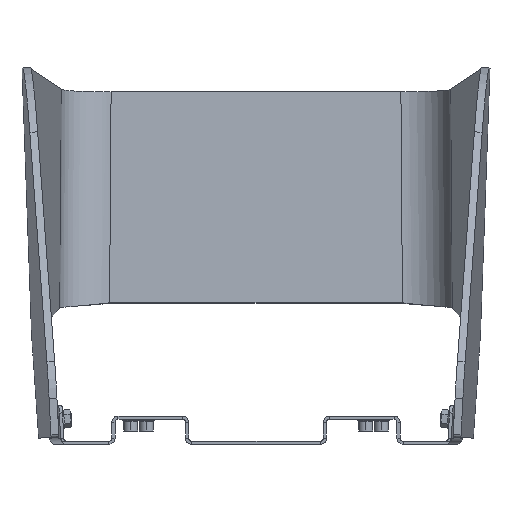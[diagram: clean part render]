
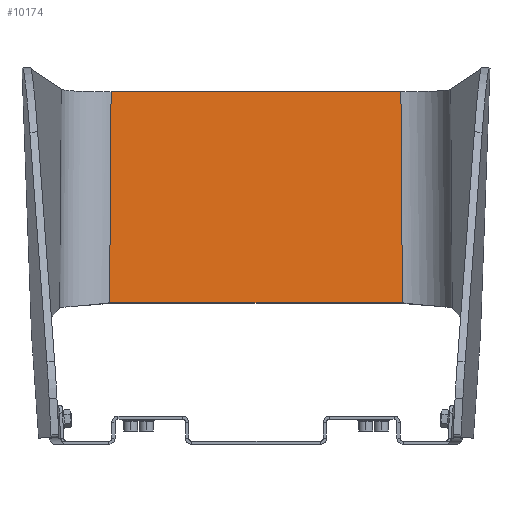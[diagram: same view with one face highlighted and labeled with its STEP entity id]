
A CAD part, front view. The second image highlights one B-rep face of the part: STEP entity #10174.
In plain terms, the highlighted planar face has unit normal (0, -0.997, 0.079).
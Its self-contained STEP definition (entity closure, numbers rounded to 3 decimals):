
#2483=DIRECTION('',(1.,0.,0.));
#2484=VECTOR('',#2483,185.024);
#2485=CARTESIAN_POINT('',(-92.512,483.714,207.227));
#2486=LINE('1068',#2485,#2484);
#2487=DIRECTION('',(0.007,-0.078,-0.997));
#2488=VECTOR('',#2487,135.287);
#2489=CARTESIAN_POINT('',(92.512,483.714,207.227));
#2490=LINE('1083',#2489,#2488);
#2491=DIRECTION('',(-1.,0.,0.));
#2492=VECTOR('',#2491,186.93);
#2493=CARTESIAN_POINT('',(93.465,473.1,72.36));
#2494=LINE('1079',#2493,#2492);
#2495=DIRECTION('',(0.007,0.078,0.997));
#2496=VECTOR('',#2495,135.287);
#2497=CARTESIAN_POINT('',(-93.465,473.1,72.36));
#2498=LINE('1081',#2497,#2496);
#6623=CARTESIAN_POINT('',(92.512,483.714,207.227));
#6624=VERTEX_POINT('',#6623);
#6625=CARTESIAN_POINT('',(-92.512,483.714,207.227));
#6626=VERTEX_POINT('',#6625);
#6631=CARTESIAN_POINT('',(93.465,473.1,72.36));
#6632=VERTEX_POINT('',#6631);
#6634=CARTESIAN_POINT('',(-93.465,473.1,72.36));
#6635=VERTEX_POINT('',#6634);
#10160=CARTESIAN_POINT('',(126.619,484.908,222.392));
#10161=DIRECTION('',(0.,0.997,-0.078));
#10162=DIRECTION('',(-1.,0.,-0.001));
#10163=AXIS2_PLACEMENT_3D('',#10160,#10161,#10162);
#10164=PLANE('299',#10163);
#10166=ORIENTED_EDGE('1068',*,*,#10165,.T.);
#10167=ORIENTED_EDGE('1083',*,*,#10143,.T.);
#10169=ORIENTED_EDGE('1079',*,*,#10168,.T.);
#10171=ORIENTED_EDGE('1081',*,*,#10170,.T.);
#10172=EDGE_LOOP('299',(#10166,#10167,#10169,#10171));
#10173=FACE_OUTER_BOUND('299',#10172,.F.);
#10143=EDGE_CURVE('1083',#6624,#6632,#2490,.T.);
#10165=EDGE_CURVE('1068',#6626,#6624,#2486,.T.);
#10168=EDGE_CURVE('1079',#6632,#6635,#2494,.T.);
#10170=EDGE_CURVE('1081',#6635,#6626,#2498,.T.);
#10174=ADVANCED_FACE('299',(#10173),#10164,.F.);
